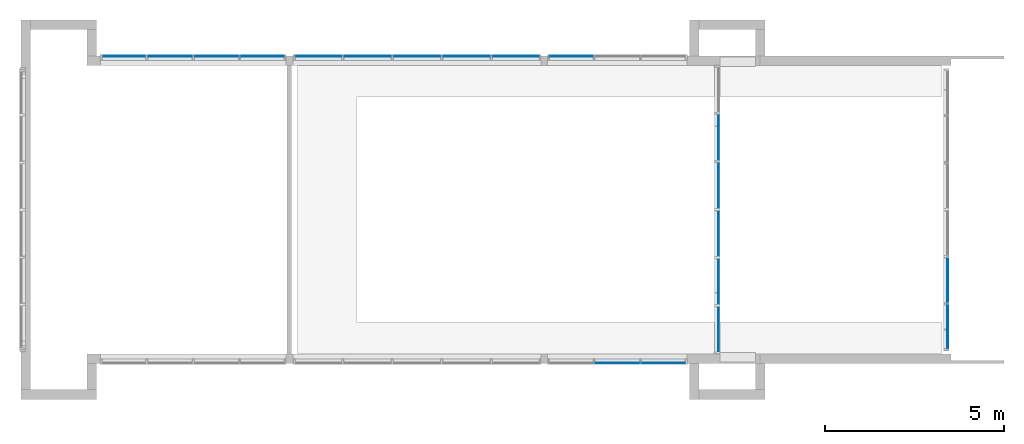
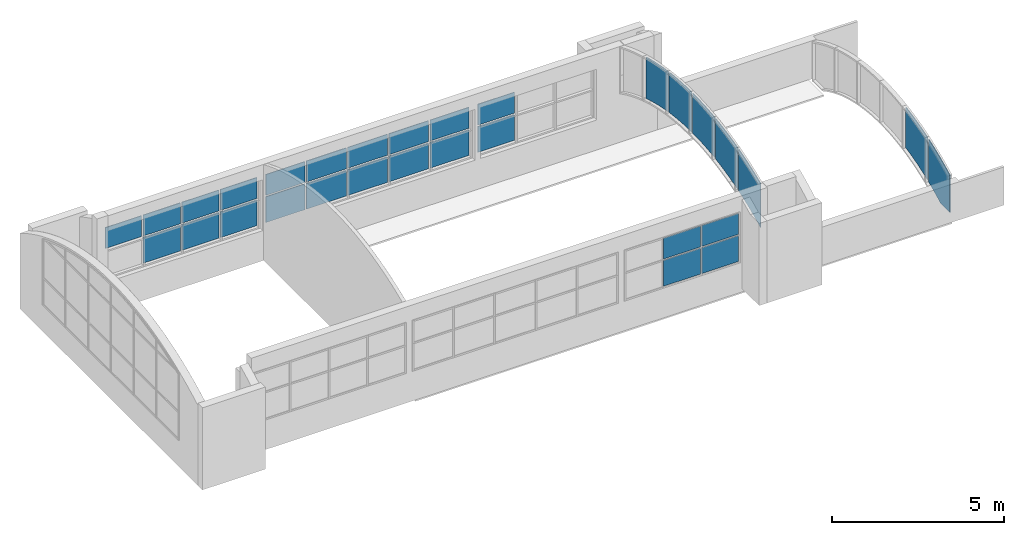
# One storey, part 10 of 14: 31 plates, 7 elements without a shape of their own.
"""IFC2X3 building model written with IfcOpenShell, lengths in metres."""

from ifc_helpers import new_model, entity, si_unit, converted_unit, frame, frame_2d, origin, origin_2d_with_axis, place, context, project, spatial, polyline, circle_curve, parameter, trimmed, segment, composite_curve, rectangle, outline, extrude, source, transform, mapped, material, type_object, type_shapes, element, aggregate, save


model = new_model("IFC2X3")

# Units and contexts
model_context = context("Model", 3, precision=1e-09, world=origin())
plan_context = context("Plan", 3, precision=1e-09, world=origin())
ifc_project = project(units=[si_unit("LENGTHUNIT", "METRE"), si_unit("AREAUNIT", "SQUARE_METRE"), si_unit("VOLUMEUNIT", "CUBIC_METRE"), converted_unit("PLANEANGLEUNIT", "DEGREE", entity("IfcRatioMeasure", 0.01745329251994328), si_unit("PLANEANGLEUNIT", "RADIAN"), dimensions=[0, 0, 0, 0, 0, 0, 0]), si_unit("TIMEUNIT", "SECOND")], contexts=[model_context, plan_context])

# Site, building, storey
site_placement = place(None, origin())
site = spatial("IfcSite", under=ifc_project, at=site_placement, Name="Default", CompositionType="ELEMENT")
building_placement = place(site_placement, origin())
building = spatial("IfcBuilding", under=site, at=building_placement, CompositionType="ELEMENT")
storey_placement = place(building_placement, frame((0.0, 0.0, 9.25000000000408)))
storey = spatial("IfcBuildingStorey", under=building, at=storey_placement, Name="Roof - Main", CompositionType="ELEMENT", Elevation=9.25000000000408)

# Curtain wall, plates
curtain_wall_1_placement = place(storey_placement, origin())
curtain_wall_1 = element("IfcCurtainWall", 1, at=curtain_wall_1_placement, inside=storey, Name="Curtain Wall:Storefront", ObjectType="Curtain Wall:Storefront")
ifc_material = material(Name="Glass")
plate_type_1 = type_object("IfcPlateType", Name="Glazed", PredefinedType="CURTAIN_PANEL")
shared_shape_1 = source(origin(), model_context, "Body", "SweptSolid", [
    extrude(rectangle(XDim=0.025, YDim=1.331000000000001, at=origin_2d_with_axis()), frame((0.0, 0.03699999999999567, 0.0), z_axis=(0.0, 0.0, 1.0), x_axis=(0.0, 1.0, 0.0)), (0.0, 0.0, 1.0), 0.7381055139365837),
])
type_shapes(plate_type_1, [shared_shape_1])
plate_1_placement = place(storey_placement, frame((-29.99150000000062, 35.93490399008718, 2.078894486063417)))
plate_1 = element("IfcPlate", 2, at=plate_1_placement, type_object=plate_type_1, material=ifc_material, Name="System Panel:Glazed:Glazed", ObjectType="Glazed", context=model_context, shape_type="MappedRepresentation", body=[
    mapped(shared_shape_1, transform((0.0, 0.0, 0.0), scale=1.0)),
])
plate_2_placement = place(storey_placement, frame((-28.61050000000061, 35.93490399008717, 2.078894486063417)))
plate_2 = element("IfcPlate", 3, at=plate_2_placement, type_object=plate_type_1, material=ifc_material, Name="System Panel:Glazed:Glazed", ObjectType="Glazed", context=model_context, shape_type="MappedRepresentation", body=[
    mapped(shared_shape_1, transform((0.0, 0.0, 0.0), scale=1.0)),
])
plate_3_placement = place(storey_placement, frame((-31.37250000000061, 35.93490399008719, 2.078894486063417)))
plate_3 = element("IfcPlate", 4, at=plate_3_placement, type_object=plate_type_1, material=ifc_material, Name="System Panel:Glazed:Glazed", ObjectType="Glazed", context=model_context, shape_type="MappedRepresentation", body=[
    mapped(shared_shape_1, transform((0.0, 0.0, 0.0), scale=1.0)),
])
plate_type_2 = type_object("IfcPlateType", Name="Glazed", PredefinedType="CURTAIN_PANEL")
shared_shape_2 = source(origin(), model_context, "Body", "SweptSolid", [
    extrude(rectangle(XDim=0.025, YDim=1.331000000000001, at=origin_2d_with_axis()), frame((0.0, 0.03699999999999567, 0.0), z_axis=(0.0, 0.0, 1.0), x_axis=(0.0, 1.0, 0.0)), (0.0, 0.0, 1.0), 0.9118944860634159),
])
type_shapes(plate_type_2, [shared_shape_2])
plate_4_placement = place(storey_placement, frame((-31.37250000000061, 35.93490399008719, 1.117)))
plate_4 = element("IfcPlate", 5, at=plate_4_placement, type_object=plate_type_2, material=ifc_material, Name="System Panel:Glazed:Glazed", ObjectType="Glazed", context=model_context, shape_type="MappedRepresentation", body=[
    mapped(shared_shape_2, transform((0.0, 0.0, 0.0), scale=1.0)),
])
plate_5_placement = place(storey_placement, frame((-29.99150000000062, 35.93490399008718, 1.117)))
plate_5 = element("IfcPlate", 6, at=plate_5_placement, type_object=plate_type_2, material=ifc_material, Name="System Panel:Glazed:Glazed", ObjectType="Glazed", context=model_context, shape_type="MappedRepresentation", body=[
    mapped(shared_shape_2, transform((0.0, 0.0, 0.0), scale=1.0)),
])
plate_6_placement = place(storey_placement, frame((-28.61050000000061, 35.93490399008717, 1.117)))
plate_6 = element("IfcPlate", 7, at=plate_6_placement, type_object=plate_type_2, material=ifc_material, Name="System Panel:Glazed:Glazed", ObjectType="Glazed", context=model_context, shape_type="MappedRepresentation", body=[
    mapped(shared_shape_2, transform((0.0, 0.0, 0.0), scale=1.0)),
])

# Curtain wall, plate
curtain_wall_2_placement = place(storey_placement, origin())
curtain_wall_2 = element("IfcCurtainWall", 8, at=curtain_wall_2_placement, inside=storey, Name="Curtain Wall:Storefront", ObjectType="Curtain Wall:Storefront")
plate_type_3 = type_object("IfcPlateType", Name="Glazed", PredefinedType="CURTAIN_PANEL")
shared_shape_3 = source(origin(), model_context, "Body", "SweptSolid", [
    extrude(rectangle(XDim=0.025, YDim=1.221666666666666, at=origin_2d_with_axis()), frame((0.0, 0.03700000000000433, 0.0), z_axis=(0.0, 0.0, 1.0), x_axis=(0.0, 1.0, 0.0)), (0.0, 0.0, 1.0), 0.7381055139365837),
])
type_shapes(plate_type_3, [shared_shape_3])
plate_7_placement = place(storey_placement, frame((-25.68916666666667, 35.93490399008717, 2.078894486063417)))
plate_7 = element("IfcPlate", 9, at=plate_7_placement, type_object=plate_type_3, material=ifc_material, Name="System Panel:Glazed:Glazed", ObjectType="Glazed", context=model_context, shape_type="MappedRepresentation", body=[
    mapped(shared_shape_3, transform((0.0, 0.0, 0.0), scale=1.0)),
])

curtain_wall_3_placement = place(storey_placement, origin())
curtain_wall_3 = element("IfcCurtainWall", 10, at=curtain_wall_3_placement, inside=storey, Name="Curtain Wall:Storefront", ObjectType="Curtain Wall:Storefront")
plate_type_4 = type_object("IfcPlateType", Name="Glazed", PredefinedType="CURTAIN_PANEL")
shared_shape_4 = source(origin(), model_context, "Body", "SweptSolid", [
    extrude(rectangle(XDim=0.02500000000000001, YDim=1.221666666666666, at=origin_2d_with_axis()), frame((0.0, -0.03700000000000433, 0.0), z_axis=(0.0, 0.0, 1.0), x_axis=(0.0, 1.0, 0.0)), (0.0, 0.0, 1.0), 0.7381055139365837),
])
type_shapes(plate_type_4, [shared_shape_4])
plate_8_placement = place(storey_placement, frame((-23.12083333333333, 27.45559600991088, 2.078894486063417)))
plate_8 = element("IfcPlate", 11, at=plate_8_placement, type_object=plate_type_4, material=ifc_material, Name="System Panel:Glazed:Glazed", ObjectType="Glazed", context=model_context, shape_type="MappedRepresentation", body=[
    mapped(shared_shape_4, transform((0.0, 0.0, 0.0), scale=1.0)),
])

# Plate
plate_type_5 = type_object("IfcPlateType", Name="Glazed", PredefinedType="CURTAIN_PANEL")
shared_shape_5 = source(origin(), model_context, "Body", "SweptSolid", [
    extrude(rectangle(XDim=0.025, YDim=1.221666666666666, at=origin_2d_with_axis()), frame((0.0, 0.03700000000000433, 0.0), z_axis=(0.0, 0.0, 1.0), x_axis=(0.0, 1.0, 0.0)), (0.0, 0.0, 1.0), 0.9118944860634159),
])
type_shapes(plate_type_5, [shared_shape_5])
plate_9_placement = place(storey_placement, frame((-25.68916666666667, 35.93490399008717, 1.117)))
plate_9 = element("IfcPlate", 12, at=plate_9_placement, type_object=plate_type_5, material=ifc_material, Name="System Panel:Glazed:Glazed", ObjectType="Glazed", context=model_context, shape_type="MappedRepresentation", body=[
    mapped(shared_shape_5, transform((0.0, 0.0, 0.0), scale=1.0)),
])

aggregate(curtain_wall_2, [plate_7, plate_9])

plate_type_6 = type_object("IfcPlateType", Name="Glazed", PredefinedType="CURTAIN_PANEL")
shared_shape_6 = source(origin(), model_context, "Body", "SweptSolid", [
    extrude(rectangle(XDim=0.02500000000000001, YDim=1.221666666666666, at=origin_2d_with_axis()), frame((0.0, -0.03700000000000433, 0.0), z_axis=(0.0, 0.0, 1.0), x_axis=(0.0, 1.0, 0.0)), (0.0, 0.0, 1.0), 0.9118944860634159),
])
type_shapes(plate_type_6, [shared_shape_6])
plate_10_placement = place(storey_placement, frame((-23.12083333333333, 27.45559600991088, 1.117)))
plate_10 = element("IfcPlate", 13, at=plate_10_placement, type_object=plate_type_6, material=ifc_material, Name="System Panel:Glazed:Glazed", ObjectType="Glazed", context=model_context, shape_type="MappedRepresentation", body=[
    mapped(shared_shape_6, transform((0.0, 0.0, 0.0), scale=1.0)),
])

# Curtain wall, plates
curtain_wall_4_placement = place(storey_placement, origin())
curtain_wall_4 = element("IfcCurtainWall", 14, at=curtain_wall_4_placement, inside=storey, Name="Curtain Wall:Storefront", ObjectType="Curtain Wall:Storefront")
plate_type_7 = type_object("IfcPlateType", Name="Glazed", PredefinedType="CURTAIN_PANEL")
shared_shape_7 = source(origin(), model_context, "Body", "SweptSolid", [
    extrude(rectangle(XDim=0.025, YDim=1.22, at=origin_2d_with_axis()), frame((0.0, 0.037, 0.0), z_axis=(0.0, 0.0, 1.0), x_axis=(0.0, 1.0, 0.0)), (0.0, 0.0, 1.0), 0.7381055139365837),
])
type_shapes(plate_type_7, [shared_shape_7])
plate_11_placement = place(storey_placement, frame((-34.30600000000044, 35.93490399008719, 2.078894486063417)))
plate_11 = element("IfcPlate", 15, at=plate_11_placement, type_object=plate_type_7, material=ifc_material, Name="System Panel:Glazed:Glazed", ObjectType="Glazed", context=model_context, shape_type="MappedRepresentation", body=[
    mapped(shared_shape_7, transform((0.0, 0.0, 0.0), scale=1.0)),
])
plate_12_placement = place(storey_placement, frame((-38.16600000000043, 35.93490399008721, 2.078894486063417)))
plate_12 = element("IfcPlate", 16, at=plate_12_placement, type_object=plate_type_7, material=ifc_material, Name="System Panel:Glazed:Glazed", ObjectType="Glazed", context=model_context, shape_type="MappedRepresentation", body=[
    mapped(shared_shape_7, transform((0.0, 0.0, 0.0), scale=1.0)),
])

# Plate
plate_type_8 = type_object("IfcPlateType", Name="Glazed", PredefinedType="CURTAIN_PANEL")
shared_shape_8 = source(origin(), model_context, "Body", "SweptSolid", [
    extrude(rectangle(XDim=0.025, YDim=1.305999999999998, at=origin_2d_with_axis()), frame((0.0, 0.037, 0.0), z_axis=(0.0, 0.0, 1.0), x_axis=(0.0, 1.0, 0.0)), (0.0, 0.0, 1.0), 0.7381055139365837),
])
type_shapes(plate_type_8, [shared_shape_8])
plate_13_placement = place(storey_placement, frame((-32.74100000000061, 35.93490399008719, 2.078894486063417)))
plate_13 = element("IfcPlate", 17, at=plate_13_placement, type_object=plate_type_8, material=ifc_material, Name="System Panel:Glazed:Glazed", ObjectType="Glazed", context=model_context, shape_type="MappedRepresentation", body=[
    mapped(shared_shape_8, transform((0.0, 0.0, 0.0), scale=1.0)),
])

plate_14_placement = place(storey_placement, frame((-27.24200000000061, 35.93490399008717, 2.078894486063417)))
plate_14 = element("IfcPlate", 18, at=plate_14_placement, type_object=plate_type_8, material=ifc_material, Name="System Panel:Glazed:Glazed", ObjectType="Glazed", context=model_context, shape_type="MappedRepresentation", body=[
    mapped(shared_shape_8, transform((0.0, 0.0, 0.0), scale=1.0)),
])

plate_type_9 = type_object("IfcPlateType", Name="Glazed", PredefinedType="CURTAIN_PANEL")
shared_shape_9 = source(origin(), model_context, "Body", "SweptSolid", [
    extrude(rectangle(XDim=0.025, YDim=1.22, at=origin_2d_with_axis()), frame((0.0, 0.037, 0.0), z_axis=(0.0, 0.0, 1.0), x_axis=(0.0, 1.0, 0.0)), (0.0, 0.0, 1.0), 0.9118944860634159),
])
type_shapes(plate_type_9, [shared_shape_9])
plate_15_placement = place(storey_placement, frame((-34.30600000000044, 35.93490399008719, 1.117)))
plate_15 = element("IfcPlate", 19, at=plate_15_placement, type_object=plate_type_9, material=ifc_material, Name="System Panel:Glazed:Glazed", ObjectType="Glazed", context=model_context, shape_type="MappedRepresentation", body=[
    mapped(shared_shape_9, transform((0.0, 0.0, 0.0), scale=1.0)),
])

plate_type_10 = type_object("IfcPlateType", Name="Glazed", PredefinedType="CURTAIN_PANEL")
shared_shape_10 = source(origin(), model_context, "Body", "SweptSolid", [
    extrude(rectangle(XDim=0.025, YDim=1.305999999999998, at=origin_2d_with_axis()), frame((0.0, 0.037, 0.0), z_axis=(0.0, 0.0, 1.0), x_axis=(0.0, 1.0, 0.0)), (0.0, 0.0, 1.0), 0.9118944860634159),
])
type_shapes(plate_type_10, [shared_shape_10])
plate_16_placement = place(storey_placement, frame((-32.74100000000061, 35.93490399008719, 1.117)))
plate_16 = element("IfcPlate", 20, at=plate_16_placement, type_object=plate_type_10, material=ifc_material, Name="System Panel:Glazed:Glazed", ObjectType="Glazed", context=model_context, shape_type="MappedRepresentation", body=[
    mapped(shared_shape_10, transform((0.0, 0.0, 0.0), scale=1.0)),
])

plate_17_placement = place(storey_placement, frame((-27.24200000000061, 35.93490399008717, 1.117)))
plate_17 = element("IfcPlate", 21, at=plate_17_placement, type_object=plate_type_10, material=ifc_material, Name="System Panel:Glazed:Glazed", ObjectType="Glazed", context=model_context, shape_type="MappedRepresentation", body=[
    mapped(shared_shape_10, transform((0.0, 0.0, 0.0), scale=1.0)),
])

aggregate(curtain_wall_1, [plate_4, plate_1, plate_13, plate_2, plate_16, plate_17, plate_5, plate_6, plate_3, plate_14])

plate_type_11 = type_object("IfcPlateType", Name="Glazed", PredefinedType="CURTAIN_PANEL")
shared_shape_11 = source(origin(), model_context, "Body", "SweptSolid", [
    extrude(rectangle(XDim=0.025, YDim=1.245000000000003, at=origin_2d_with_axis()), frame((0.0, 0.03699999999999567, 0.0), z_axis=(0.0, 0.0, 1.0), x_axis=(0.0, 1.0, 0.0)), (0.0, 0.0, 1.0), 0.7381055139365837),
])
type_shapes(plate_type_11, [shared_shape_11])
plate_18_placement = place(storey_placement, frame((-36.88350000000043, 35.9349039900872, 2.078894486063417)))
plate_18 = element("IfcPlate", 22, at=plate_18_placement, type_object=plate_type_11, material=ifc_material, Name="System Panel:Glazed:Glazed", ObjectType="Glazed", context=model_context, shape_type="MappedRepresentation", body=[
    mapped(shared_shape_11, transform((0.0, 0.0, 0.0), scale=1.0)),
])

plate_19_placement = place(storey_placement, frame((-35.58850000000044, 35.93490399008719, 2.078894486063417)))
plate_19 = element("IfcPlate", 23, at=plate_19_placement, type_object=plate_type_11, material=ifc_material, Name="System Panel:Glazed:Glazed", ObjectType="Glazed", context=model_context, shape_type="MappedRepresentation", body=[
    mapped(shared_shape_11, transform((0.0, 0.0, 0.0), scale=1.0)),
])

plate_type_12 = type_object("IfcPlateType", Name="Glazed", PredefinedType="CURTAIN_PANEL")
shared_shape_12 = source(origin(), model_context, "Body", "SweptSolid", [
    extrude(rectangle(XDim=0.025, YDim=1.245000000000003, at=origin_2d_with_axis()), frame((0.0, 0.03699999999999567, 0.0), z_axis=(0.0, 0.0, 1.0), x_axis=(0.0, 1.0, 0.0)), (0.0, 0.0, 1.0), 0.9118944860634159),
])
type_shapes(plate_type_12, [shared_shape_12])
plate_20_placement = place(storey_placement, frame((-35.58850000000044, 35.93490399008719, 1.117)))
plate_20 = element("IfcPlate", 24, at=plate_20_placement, type_object=plate_type_12, material=ifc_material, Name="System Panel:Glazed:Glazed", ObjectType="Glazed", context=model_context, shape_type="MappedRepresentation", body=[
    mapped(shared_shape_12, transform((0.0, 0.0, 0.0), scale=1.0)),
])

plate_21_placement = place(storey_placement, frame((-36.88350000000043, 35.9349039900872, 1.117)))
plate_21 = element("IfcPlate", 25, at=plate_21_placement, type_object=plate_type_12, material=ifc_material, Name="System Panel:Glazed:Glazed", ObjectType="Glazed", context=model_context, shape_type="MappedRepresentation", body=[
    mapped(shared_shape_12, transform((0.0, 0.0, 0.0), scale=1.0)),
])

aggregate(curtain_wall_4, [plate_11, plate_15, plate_18, plate_19, plate_12, plate_20, plate_21])

# Curtain wall, plate
curtain_wall_5_placement = place(storey_placement, origin())
curtain_wall_5 = element("IfcCurtainWall", 26, at=curtain_wall_5_placement, inside=storey, Name="Curtain Wall:Storefront", ObjectType="Curtain Wall:Storefront")
plate_type_13 = type_object("IfcPlateType", Name="Glazed", PredefinedType="CURTAIN_PANEL")
shared_shape_13 = source(origin(), model_context, "Body", "SweptSolid", [
    extrude(outline(composite_curve([segment(polyline([(-0.758461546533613, -0.6453733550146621), (0.6656355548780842, -0.6453733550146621)]), True, "CONTINUOUS"), segment(trimmed(circle_curve(frame_2d((-9.379847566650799, 0.670537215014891), x_axis=(1.0, -1.609420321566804e-05)), 10.13130553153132), [parameter(352.5379412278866)], [parameter(359.8586122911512)], True, "PARAMETER"), True, "CONTINUOUS"), segment(polyline([(0.7514267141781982, 0.6453733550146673), (-0.6586007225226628, 0.6453733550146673)]), True, "CONTINUOUS"), segment(trimmed(circle_curve(frame_2d((-9.375530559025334, 0.670537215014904), x_axis=(0.9879591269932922, -0.1547151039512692)), 8.716966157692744), [parameter(0.2177271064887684)], [parameter(8.734873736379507)], True, "PARAMETER"), False, "CONTINUOUS")], self_intersect=False)), frame((0.0, 0.02450000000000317, 0.7584615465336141), z_axis=(0.0, 1.0, 0.0), x_axis=(0.0, 0.0, 1.0)), (0.0, 0.0, 1.0), 0.02499999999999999),
])
type_shapes(plate_type_13, [shared_shape_13])
plate_22_placement = place(storey_placement, frame((-21.61957995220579, 32.36562335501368, 2.665029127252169), z_axis=(0.0, 0.0, 1.0), x_axis=(0.0, -1.0, 0.0)))
plate_22 = element("IfcPlate", 27, at=plate_22_placement, type_object=plate_type_13, material=ifc_material, Name="System Panel:Glazed:Glazed", ObjectType="Glazed", context=model_context, shape_type="MappedRepresentation", body=[
    mapped(shared_shape_13, transform((0.0, 0.0, 0.0), scale=1.0)),
])

# Plate
plate_type_14 = type_object("IfcPlateType", Name="Glazed", PredefinedType="CURTAIN_PANEL")
shared_shape_14 = source(origin(), model_context, "Body", "SweptSolid", [
    extrude(rectangle(XDim=0.02500000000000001, YDim=1.246666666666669, at=origin_2d_with_axis()), frame((0.0, -0.03700000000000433, 0.0), z_axis=(0.0, 0.0, 1.0), x_axis=(0.0, 1.0, 0.0)), (0.0, 0.0, 1.0), 0.7381055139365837),
])
type_shapes(plate_type_14, [shared_shape_14])
plate_23_placement = place(storey_placement, frame((-24.405, 27.45559600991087, 2.078894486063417)))
plate_23 = element("IfcPlate", 28, at=plate_23_placement, type_object=plate_type_14, material=ifc_material, Name="System Panel:Glazed:Glazed", ObjectType="Glazed", context=model_context, shape_type="MappedRepresentation", body=[
    mapped(shared_shape_14, transform((0.0, 0.0, 0.0), scale=1.0)),
])

plate_type_15 = type_object("IfcPlateType", Name="Glazed", PredefinedType="CURTAIN_PANEL")
shared_shape_15 = source(origin(), model_context, "Body", "SweptSolid", [
    extrude(outline(composite_curve([segment(trimmed(circle_curve(frame_2d((-9.375554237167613, 0.6702094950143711), x_axis=(1.0, 1.890626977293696e-05)), 8.716966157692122), [parameter(351.3185492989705)], [parameter(359.8356709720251)], True, "PARAMETER"), False, "CONTINUOUS"), segment(polyline([(-0.758435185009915, -0.6453733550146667), (0.6656548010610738, -0.6453733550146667)]), True, "CONTINUOUS"), segment(trimmed(circle_curve(frame_2d((-9.379871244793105, 0.6702094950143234), x_axis=(0.9912934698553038, -0.1316710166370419)), 10.13130553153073), [parameter(0.1050529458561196)], [parameter(7.425708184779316)], True, "PARAMETER"), True, "CONTINUOUS"), segment(polyline([(0.75140384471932, 0.6453733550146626), (-0.6586234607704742, 0.6453733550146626)]), True, "CONTINUOUS")], self_intersect=False)), frame((0.0, 0.02450000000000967, 0.7584351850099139), z_axis=(0.0, -1.0, 0.0), x_axis=(0.0, 0.0, 1.0)), (0.0, 0.0, -1.0), 0.025),
])
type_shapes(plate_type_15, [shared_shape_15])
plate_24_placement = place(storey_placement, frame((-21.61957995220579, 31.02487664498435, 2.665079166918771), z_axis=(0.0, 0.0, 1.0), x_axis=(0.0, -1.0, 0.0)))
plate_24 = element("IfcPlate", 29, at=plate_24_placement, type_object=plate_type_15, material=ifc_material, Name="System Panel:Glazed:Glazed", ObjectType="Glazed", context=model_context, shape_type="MappedRepresentation", body=[
    mapped(shared_shape_15, transform((0.0, 0.0, 0.0), scale=1.0)),
])

plate_type_16 = type_object("IfcPlateType", Name="Glazed", PredefinedType="CURTAIN_PANEL")
shared_shape_16 = source(origin(), model_context, "Body", "SweptSolid", [
    extrude(rectangle(XDim=0.02500000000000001, YDim=1.246666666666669, at=origin_2d_with_axis()), frame((0.0, -0.03700000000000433, 0.0), z_axis=(0.0, 0.0, 1.0), x_axis=(0.0, 1.0, 0.0)), (0.0, 0.0, 1.0), 0.9118944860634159),
])
type_shapes(plate_type_16, [shared_shape_16])
plate_25_placement = place(storey_placement, frame((-24.405, 27.45559600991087, 1.117)))
plate_25 = element("IfcPlate", 30, at=plate_25_placement, type_object=plate_type_16, material=ifc_material, Name="System Panel:Glazed:Glazed", ObjectType="Glazed", context=model_context, shape_type="MappedRepresentation", body=[
    mapped(shared_shape_16, transform((0.0, 0.0, 0.0), scale=1.0)),
])

aggregate(curtain_wall_3, [plate_23, plate_25, plate_10, plate_8])

# Curtain wall, plate
curtain_wall_6_placement = place(storey_placement, origin())
curtain_wall_6 = element("IfcCurtainWall", 31, at=curtain_wall_6_placement, inside=storey, Name="Curtain Wall:Storefront", ObjectType="Curtain Wall:Storefront")
plate_type_17 = type_object("IfcPlateType", Name="Glazed", PredefinedType="CURTAIN_PANEL")
shared_shape_17 = source(origin(), model_context, "Body", "SweptSolid", [
    extrude(outline(composite_curve([segment(polyline([(-0.7017509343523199, -0.6025229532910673), (0.615883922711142, -0.6025229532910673)]), True, "CONTINUOUS"), segment(trimmed(circle_curve(frame_2d((-6.702477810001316, 3.282631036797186), x_axis=(0.9491835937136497, -0.3147229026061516)), 8.28570093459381), [parameter(350.3812571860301)], [parameter(359.702971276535)], True, "PARAMETER"), True, "CONTINUOUS"), segment(polyline([(1.148549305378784, 0.6341950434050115), (-0.3609313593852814, 0.6341950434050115)]), True, "CONTINUOUS"), segment(trimmed(circle_curve(frame_2d((-6.669792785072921, 3.284689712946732), x_axis=(0.8711951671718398, -0.4909368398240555)), 6.843015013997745), [parameter(0.1100252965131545)], [parameter(6.613803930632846)], True, "PARAMETER"), False, "CONTINUOUS"), segment(polyline([(-0.7017509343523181, -0.06334418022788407), (-0.7017509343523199, -0.6025229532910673)]), True, "CONTINUOUS")], self_intersect=False)), frame((-0.0158360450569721, -0.04950000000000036, 0.7017509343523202), z_axis=(0.0, 1.0, 0.0), x_axis=(0.0, 0.0, 1.0)), (0.0, 0.0, 1.0), 0.02500000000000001),
])
type_shapes(plate_type_17, [shared_shape_17])
plate_26_placement = place(storey_placement, frame((-15.23000000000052, 28.42845500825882, 0.0499999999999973), z_axis=(0.0, 0.0, 1.0), x_axis=(0.0, 1.0, 0.0)))
plate_26 = element("IfcPlate", 32, at=plate_26_placement, type_object=plate_type_17, material=ifc_material, Name="System Panel:Glazed:Glazed", ObjectType="Glazed", context=model_context, shape_type="MappedRepresentation", body=[
    mapped(shared_shape_17, transform((0.0, 0.0, 0.0), scale=1.0)),
])
aggregate(curtain_wall_6, [plate_26])

curtain_wall_7_placement = place(storey_placement, origin())
curtain_wall_7 = element("IfcCurtainWall", 33, at=curtain_wall_7_placement, inside=storey, Name="Curtain Wall:Storefront", ObjectType="Curtain Wall:Storefront")
plate_type_18 = type_object("IfcPlateType", Name="Glazed", PredefinedType="CURTAIN_PANEL")
shared_shape_18 = source(origin(), model_context, "Body", "SweptSolid", [
    extrude(outline(composite_curve([segment(polyline([(-0.6219994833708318, -0.3324107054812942), (-0.4155229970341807, -0.8260281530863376)]), True, "CONTINUOUS"), segment(polyline([(-0.4155229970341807, -0.8260281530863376), (0.8000525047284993, -0.3175620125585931)]), True, "CONTINUOUS"), segment(trimmed(circle_curve(frame_2d((-7.450708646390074, 0.4425566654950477), x_axis=(0.995445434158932, -0.0953330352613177)), 8.285700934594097), [parameter(0.206852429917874)], [parameter(9.528566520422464)], True, "PARAMETER"), True, "CONTINUOUS"), segment(polyline([(0.8142186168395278, 1.028916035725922), (-0.5767486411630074, 0.4470848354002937)]), True, "CONTINUOUS"), segment(trimmed(circle_curve(frame_2d((-7.419760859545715, 0.453270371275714), x_axis=(1.0, 0.0)), 6.843015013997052), [parameter(353.407042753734)], [parameter(359.9482092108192)], True, "PARAMETER"), False, "CONTINUOUS")], self_intersect=False)), frame((0.01665951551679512, 0.02449999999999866, 0.7020965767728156), z_axis=(0.0, -1.0, 0.0), x_axis=(0.3858930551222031, 0.0, 0.9225435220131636)), (0.0, 0.0, -1.0), 0.02499999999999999),
])
type_shapes(plate_type_18, [shared_shape_18])
plate_27_placement = place(storey_placement, frame((-15.23000000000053, 28.42845500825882, 0.04999999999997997), z_axis=(0.0, 0.0, 1.0), x_axis=(0.0, -1.0, 0.0)))
plate_27 = element("IfcPlate", 34, at=plate_27_placement, type_object=plate_type_18, material=ifc_material, Name="System Panel:Glazed:Glazed", ObjectType="Glazed", context=model_context, shape_type="MappedRepresentation", body=[
    mapped(shared_shape_18, transform((0.0, 0.0, 0.0), scale=1.0)),
])

# Plate
plate_type_19 = type_object("IfcPlateType", Name="Glazed", PredefinedType="CURTAIN_PANEL")
shared_shape_19 = source(origin(), model_context, "Body", "SweptSolid", [
    extrude(outline(composite_curve([segment(trimmed(circle_curve(frame_2d((-8.637397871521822, 3.339202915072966), x_axis=(0.9509406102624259, -0.3093734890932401)), 8.716966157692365), [parameter(350.9133062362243)], [parameter(359.9341071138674)], True, "PARAMETER"), False, "CONTINUOUS"), segment(polyline([(-0.8780094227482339, -0.6328733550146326), (-0.28535798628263, -0.6328733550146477)]), True, "CONTINUOUS"), segment(polyline([(-0.28535798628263, -0.6328733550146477), (0.6784762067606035, -0.6328733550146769)]), True, "CONTINUOUS"), segment(trimmed(circle_curve(frame_2d((-8.641714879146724, 3.339202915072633), x_axis=(0.9186616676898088, -0.3950452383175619)), 10.13130553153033), [parameter(0.1860767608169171)], [parameter(7.775509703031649)], True, "PARAMETER"), True, "CONTINUOUS"), segment(polyline([(1.121436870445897, 0.6328733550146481), (-0.2853579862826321, 0.6328733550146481)]), True, "CONTINUOUS"), segment(polyline([(-0.2853579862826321, 0.6328733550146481), (-0.3511876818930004, 0.6328733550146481)]), True, "CONTINUOUS")], self_intersect=False)), frame((0.0, 0.02450000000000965, 0.8780094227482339), z_axis=(0.0, -1.0, 0.0), x_axis=(0.0, 0.0, 1.0)), (0.0, 0.0, -1.0), 0.025),
])
type_shapes(plate_type_19, [shared_shape_19])
plate_28_placement = place(storey_placement, frame((-21.6195799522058, 28.3558832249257, 1.807348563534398), z_axis=(0.0, 0.0, 1.0), x_axis=(0.0, -1.0, 0.0)))
plate_28 = element("IfcPlate", 35, at=plate_28_placement, type_object=plate_type_19, material=ifc_material, Name="System Panel:Glazed:Glazed", ObjectType="Glazed", context=model_context, shape_type="MappedRepresentation", body=[
    mapped(shared_shape_19, transform((0.0, 0.0, 0.0), scale=1.0)),
])

plate_type_20 = type_object("IfcPlateType", Name="Glazed", PredefinedType="CURTAIN_PANEL")
shared_shape_20 = source(origin(), model_context, "Body", "SweptSolid", [
    extrude(outline(composite_curve([segment(trimmed(circle_curve(frame_2d((-7.255608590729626, 1.965518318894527), x_axis=(0.9812390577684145, -0.1927949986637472)), 6.843015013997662), [parameter(348.8181764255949)], [parameter(359.8689018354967)], True, "PARAMETER"), False, "CONTINUOUS"), segment(polyline([(-0.9242833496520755, -0.6308589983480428), (0.5794233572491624, -0.6308589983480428)]), True, "CONTINUOUS"), segment(trimmed(circle_curve(frame_2d((-7.288293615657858, 1.967576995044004), x_axis=(0.9491835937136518, -0.3147229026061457)), 8.285700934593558), [parameter(0.06747613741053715)], [parameter(9.060082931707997)], True, "PARAMETER"), True, "CONTINUOUS"), segment(polyline([(0.88887123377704, 0.6308589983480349), (-0.5440112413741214, 0.6308589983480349)]), True, "CONTINUOUS")], self_intersect=False)), frame((0.0, 0.02450000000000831, 0.9242833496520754), z_axis=(0.0, -1.0, 0.0), x_axis=(0.0, 0.0, 1.0)), (0.0, 0.0, -1.0), 0.02499999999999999),
])
type_shapes(plate_type_20, [shared_shape_20])
plate_29_placement = place(storey_placement, frame((-15.23000000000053, 29.7276730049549, 0.4132833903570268), z_axis=(0.0, 0.0, 1.0), x_axis=(0.0, -1.0, 0.0)))
plate_29 = element("IfcPlate", 36, at=plate_29_placement, type_object=plate_type_20, material=ifc_material, Name="System Panel:Glazed:Glazed", ObjectType="Glazed", context=model_context, shape_type="MappedRepresentation", body=[
    mapped(shared_shape_20, transform((0.0, 0.0, 0.0), scale=1.0)),
])

aggregate(curtain_wall_7, [plate_27, plate_29])

plate_type_21 = type_object("IfcPlateType", Name="Glazed", PredefinedType="CURTAIN_PANEL")
shared_shape_21 = source(origin(), model_context, "Body", "SweptSolid", [
    extrude(outline(composite_curve([segment(polyline([(-0.4578003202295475, -0.6300746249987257), (-0.4099390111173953, -0.616807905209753)]), True, "CONTINUOUS"), segment(polyline([(-0.4099390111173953, -0.616807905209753), (0.9589616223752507, -0.2373610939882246)]), True, "CONTINUOUS"), segment(trimmed(circle_curve(frame_2d((-9.172211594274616, -0.2891397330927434), x_axis=(0.9999923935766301, 0.003900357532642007)), 10.13130553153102), [parameter(0.06935148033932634)], [parameter(7.523028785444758)], True, "PARAMETER"), True, "CONTINUOUS"), segment(polyline([(0.8666369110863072, 1.076463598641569), (-0.5067739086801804, 0.6957666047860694)]), True, "CONTINUOUS"), segment(trimmed(circle_curve(frame_2d((-9.168051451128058, -0.2879865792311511), x_axis=(0.9933831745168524, 0.1148471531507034)), 8.716966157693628), [parameter(353.4051908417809)], [parameter(359.8851107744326)], True, "PARAMETER"), False, "CONTINUOUS"), segment(trimmed(circle_curve(frame_2d((-9.16805145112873, -0.2879865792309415), x_axis=(1.0, 0.0)), 8.716966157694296), [parameter(357.7509106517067)], [parameter(0.0)], True, "PARAMETER"), False, "CONTINUOUS")], self_intersect=False)), frame((0.1604804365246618, 0.02450000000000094, 0.609470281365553), z_axis=(0.0, -1.0, 0.0), x_axis=(0.2671187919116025, 0.0, 0.963663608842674)), (0.0, 0.0, -1.0), 0.02499999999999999),
])
type_shapes(plate_type_21, [shared_shape_21])
plate_30_placement = place(storey_placement, frame((-21.61957995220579, 29.68412993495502, 2.350334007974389), z_axis=(0.0, 0.0, 1.0), x_axis=(0.0, -1.0, 0.0)))
plate_30 = element("IfcPlate", 37, at=plate_30_placement, type_object=plate_type_21, material=ifc_material, Name="System Panel:Glazed:Glazed", ObjectType="Glazed", context=model_context, shape_type="MappedRepresentation", body=[
    mapped(shared_shape_21, transform((0.0, 0.0, 0.0), scale=1.0)),
])

plate_type_22 = type_object("IfcPlateType", Name="Glazed", PredefinedType="CURTAIN_PANEL")
shared_shape_22 = source(origin(), model_context, "Body", "SweptSolid", [
    extrude(outline(composite_curve([segment(polyline([(-0.5597558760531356, -0.4849475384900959), (0.8606721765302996, -0.4849475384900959)]), True, "CONTINUOUS"), segment(trimmed(circle_curve(frame_2d((-8.916112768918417, 2.171709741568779), x_axis=(0.9912891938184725, -0.1317032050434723)), 10.13130553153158), [parameter(352.3660407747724)], [parameter(359.8197682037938)], True, "PARAMETER"), True, "CONTINUOUS"), segment(polyline([(1.122693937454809, 0.8057991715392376), (-0.3025108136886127, 0.8057991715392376)]), True, "CONTINUOUS"), segment(trimmed(circle_curve(frame_2d((-8.911795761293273, 2.171709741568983), x_axis=(0.9636636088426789, -0.2671187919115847)), 8.716966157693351), [parameter(0.0)], [parameter(6.477738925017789)], True, "PARAMETER"), False, "CONTINUOUS"), segment(trimmed(circle_curve(frame_2d((-8.911795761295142, 2.171709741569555), x_axis=(0.9509283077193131, -0.3094113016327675)), 8.716966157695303), [parameter(0.2795155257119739)], [parameter(2.530866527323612)], True, "PARAMETER"), False, "CONTINUOUS"), segment(polyline([(-0.6095267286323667, -0.4849475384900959), (-0.5597558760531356, -0.4849475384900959)]), True, "CONTINUOUS")], self_intersect=False)), frame((-0.1604258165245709, 0.02450000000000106, 0.6095267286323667), z_axis=(0.0, 1.0, 0.0), x_axis=(0.0, 0.0, 1.0)), (0.0, 0.0, 1.0), 0.025),
])
type_shapes(plate_type_22, [shared_shape_22])
plate_31_placement = place(storey_placement, frame((-21.61957995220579, 33.706370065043, 2.350229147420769), z_axis=(0.0, 0.0, 1.0), x_axis=(0.0, -1.0, 0.0)))
plate_31 = element("IfcPlate", 38, at=plate_31_placement, type_object=plate_type_22, material=ifc_material, Name="System Panel:Glazed:Glazed", ObjectType="Glazed", context=model_context, shape_type="MappedRepresentation", body=[
    mapped(shared_shape_22, transform((0.0, 0.0, 0.0), scale=1.0)),
])

aggregate(curtain_wall_5, [plate_24, plate_22, plate_31, plate_28, plate_30])

save(model, "model.ifc")
